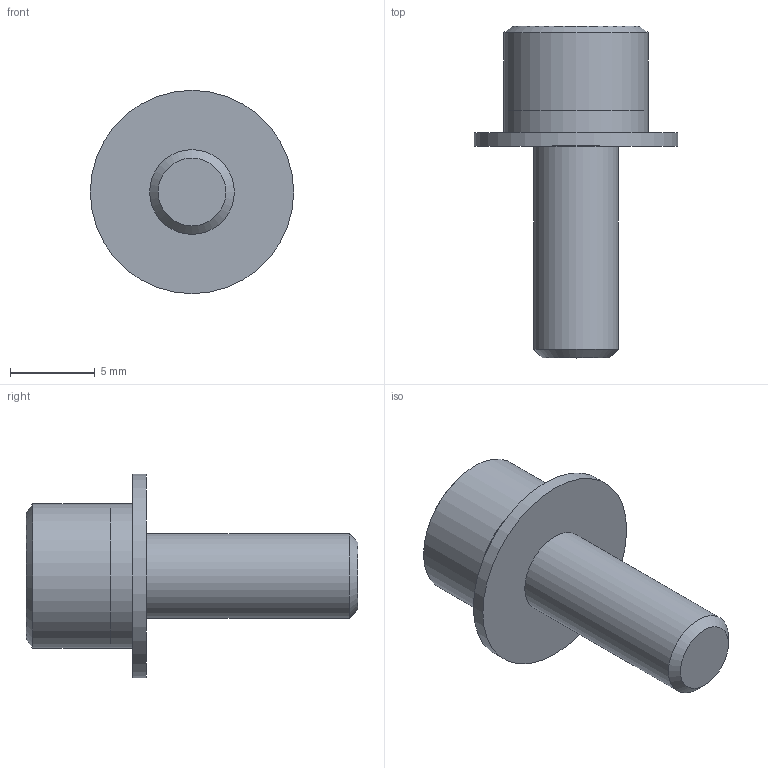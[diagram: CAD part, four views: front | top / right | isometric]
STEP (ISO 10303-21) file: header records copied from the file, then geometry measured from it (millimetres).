
FILE_DESCRIPTION((''),'2;1');
FILE_NAME('F:\CSWS-05.stp','2013-12-02T15:28:48',('AMS8'),(''),'Autodesk Inventor 2008','Autodesk Inventor 2008','');
FILE_SCHEMA(('AUTOMOTIVE_DESIGN { 1 0 10303 214 1 1 1 1 }'));
Length unit declared in the file: millimetre
Products named in the file (1): CSWS-05
Bounding box: 12 x 19.59 x 12 mm (x, y, z)
Surface area: 822.9 mm2 (no closed solid volume)
Topology: 0 solids, 3 shells, 15 faces, 30 edges, 14 vertices
Faces by surface type: plane 7, cylinder 6, cone 2
Full cylindrical faces by diameter (mm): 5 x3, 8.5 x2, 12 x1
Entity records: 382 total; most frequent: DIRECTION 70, CARTESIAN_POINT 54, ORIENTED_EDGE 38, AXIS2_PLACEMENT_3D 30, EDGE_CURVE 24, EDGE_LOOP 23, FACE_OUTER_BOUND 15, ADVANCED_FACE 15
